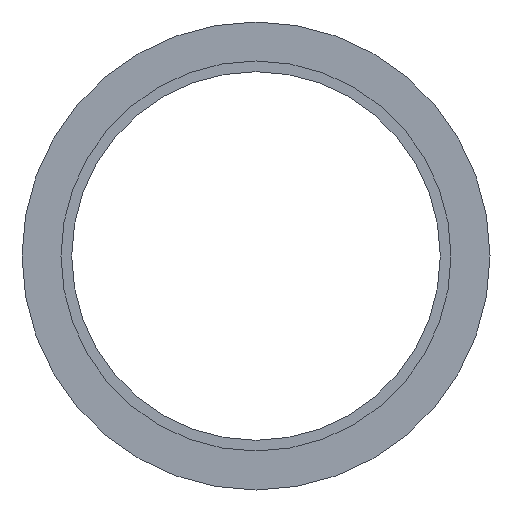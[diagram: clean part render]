
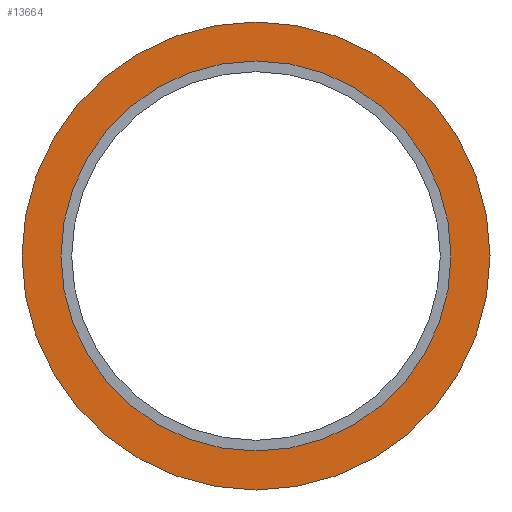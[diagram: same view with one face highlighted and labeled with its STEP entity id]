
A CAD part, left-side view. The second image highlights one B-rep face of the part: STEP entity #13664.
In plain terms, the highlighted planar face has unit normal (-1, 0, 0).
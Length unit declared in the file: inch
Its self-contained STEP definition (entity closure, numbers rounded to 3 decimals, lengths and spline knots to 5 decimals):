
#13622=CARTESIAN_POINT('',(0.125,1.,0.0));
#13623=VERTEX_POINT('',#13622);
#13624=CARTESIAN_POINT('',(0.125,0.0,0.0));
#13625=DIRECTION('',(1.0,0.0,0.0));
#13626=DIRECTION('',(0.0,1.0,0.0));
#13627=AXIS2_PLACEMENT_3D('',#13624,#13625,#13626);
#13628=CIRCLE('',#13627,1.);
#13629=EDGE_CURVE('',#13623,#13623,#13628,.T.);
#13645=CARTESIAN_POINT('',(0.125,1.1,0.0));
#13646=DIRECTION('',(-1.0,0.0,0.0));
#13647=DIRECTION('',(0.0,0.0,1.0));
#13648=AXIS2_PLACEMENT_3D('',#13645,#13646,#13647);
#13649=PLANE('',#13648);
#13650=CARTESIAN_POINT('',(0.125,1.2,0.0));
#13651=VERTEX_POINT('',#13650);
#13652=CARTESIAN_POINT('',(0.125,0.0,0.0));
#13653=DIRECTION('',(1.0,0.0,0.0));
#13654=DIRECTION('',(0.0,1.0,0.0));
#13655=AXIS2_PLACEMENT_3D('',#13652,#13653,#13654);
#13656=CIRCLE('',#13655,1.2);
#13657=EDGE_CURVE('',#13651,#13651,#13656,.T.);
#13658=ORIENTED_EDGE('',*,*,#13657,.F.);
#13659=EDGE_LOOP('',(#13658));
#13660=FACE_OUTER_BOUND('',#13659,.T.);
#13661=ORIENTED_EDGE('',*,*,#13629,.T.);
#13662=EDGE_LOOP('',(#13661));
#13663=FACE_BOUND('',#13662,.T.);
#13664=ADVANCED_FACE('',(#13660,#13663),#13649,.T.);
